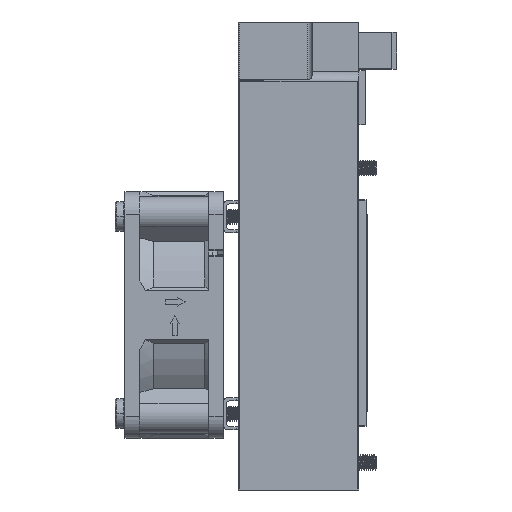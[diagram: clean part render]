
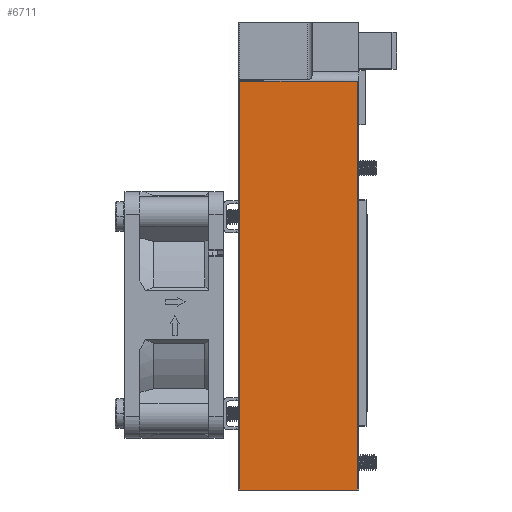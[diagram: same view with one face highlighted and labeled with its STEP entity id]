
A CAD part, left-side view. The second image highlights one B-rep face of the part: STEP entity #6711.
In plain terms, the highlighted planar face has unit normal (-1, 0, 0).
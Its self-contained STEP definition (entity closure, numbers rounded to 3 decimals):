
#1837=DIRECTION('',(0.,-1.,0.));
#1838=VECTOR('',#1837,23.9);
#1839=CARTESIAN_POINT('',(-35.,24.2,-95.));
#1840=LINE('',#1839,#1838);
#2213=DIRECTION('',(0.,0.,-1.));
#2214=VECTOR('',#2213,83.);
#2215=CARTESIAN_POINT('',(-35.,24.2,-12.));
#2216=LINE('',#2215,#2214);
#2217=DIRECTION('',(0.,-1.,0.));
#2218=VECTOR('',#2217,23.9);
#2219=CARTESIAN_POINT('',(-35.,24.2,-12.));
#2220=LINE('',#2219,#2218);
#2221=DIRECTION('',(0.,0.,1.));
#2222=VECTOR('',#2221,83.);
#2223=CARTESIAN_POINT('',(-35.,0.3,-95.));
#2224=LINE('',#2223,#2222);
#4342=CARTESIAN_POINT('',(-35.,24.2,-95.));
#4343=VERTEX_POINT('',#4342);
#4344=CARTESIAN_POINT('',(-35.,0.3,-95.));
#4345=VERTEX_POINT('',#4344);
#4487=CARTESIAN_POINT('',(-35.,0.3,-12.));
#4488=VERTEX_POINT('',#4487);
#4489=CARTESIAN_POINT('',(-35.,24.2,-12.));
#4490=VERTEX_POINT('',#4489);
#6699=CARTESIAN_POINT('',(-35.,24.225,0.));
#6700=DIRECTION('',(-1.,0.,0.));
#6701=DIRECTION('',(0.,-1.,0.));
#6702=AXIS2_PLACEMENT_3D('',#6699,#6700,#6701);
#6703=PLANE('',#6702);
#6704=ORIENTED_EDGE('',*,*,#6694,.F.);
#6705=ORIENTED_EDGE('',*,*,#6662,.T.);
#6707=ORIENTED_EDGE('',*,*,#6706,.F.);
#6708=ORIENTED_EDGE('',*,*,#6465,.F.);
#6709=EDGE_LOOP('',(#6704,#6705,#6707,#6708));
#6710=FACE_OUTER_BOUND('',#6709,.F.);
#6711=ADVANCED_FACE('',(#6710),#6703,.T.);
#6465=EDGE_CURVE('',#4343,#4345,#1840,.T.);
#6662=EDGE_CURVE('',#4490,#4488,#2220,.T.);
#6694=EDGE_CURVE('',#4490,#4343,#2216,.T.);
#6706=EDGE_CURVE('',#4345,#4488,#2224,.T.);
